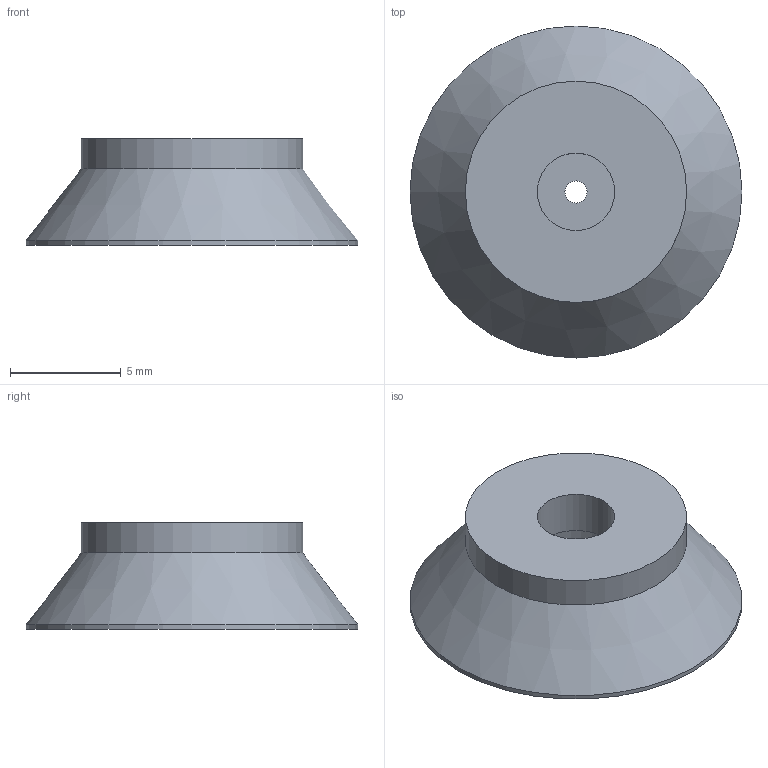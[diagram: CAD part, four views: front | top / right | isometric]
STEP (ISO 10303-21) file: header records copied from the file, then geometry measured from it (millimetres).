
FILE_DESCRIPTION( ( 'Unknown' ), '1' );
FILE_NAME( 'C:/Documents and Settings/Owner/官帕 拳搁/mark free flat pad/2016.05.02 FF LIP/FF15.stp', 'Unknown', ( 'Unknown' ), ( 'Unknown' ), 'PSStep 10.0', 'Unknown', ' ' );
FILE_SCHEMA( ( 'AUTOMOTIVE_DESIGN { 1 0 10303 214 1 1 1 1 }' ) );
Length unit declared in the file: millimetre
Products named in the file (1): 1
Bounding box: 15 x 15 x 4.8 mm (x, y, z)
Volume: 437.8 mm3; surface area: 589.3 mm2
Topology: 1 solids, 1 shells, 144 faces, 384 edges, 255 vertices
Faces by surface type: cylinder 77, plane 65, cone 2
Full cylindrical faces by diameter (mm): 1 x1, 1.3 x1, 3.5 x1, 5.5 x1, 10 x1, 11 x1, 15 x1
Entity records: 5656 total; most frequent: DIRECTION 826, CARTESIAN_POINT 771, ORIENTED_EDGE 746, EDGE_CURVE 373, AXIS2_PLACEMENT_3D 308, VERTEX_POINT 253, LINE 210, VECTOR 210
